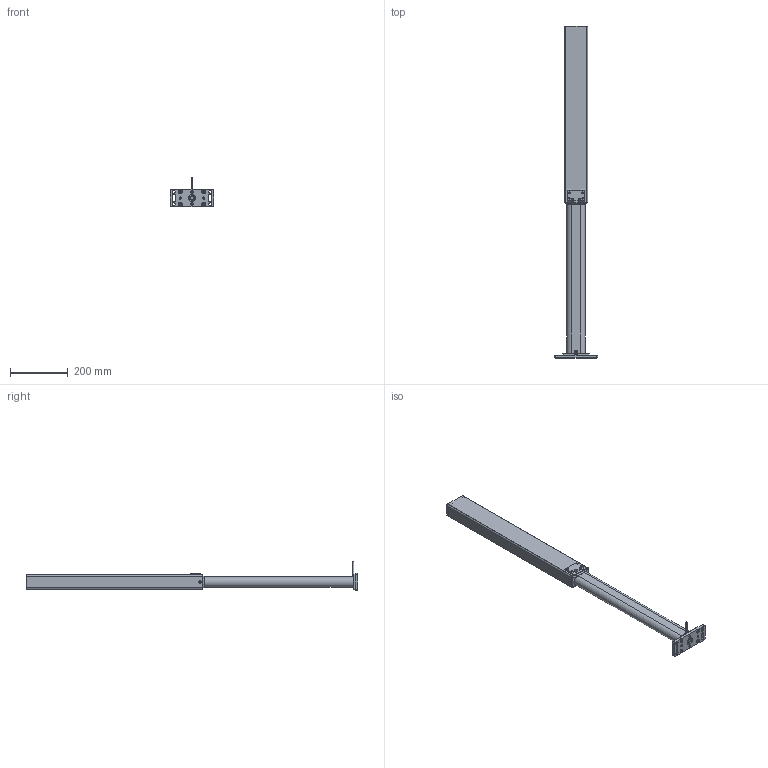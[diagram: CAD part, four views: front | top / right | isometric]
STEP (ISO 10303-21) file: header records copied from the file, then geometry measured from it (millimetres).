
FILE_DESCRIPTION(/* description */ ('Unknown'),/* implementation_level */ '2;1');
FILE_NAME(/* name */ '306.00100 Tischbein TA 1850 ausgefahren',/* time_stamp */ '2018-01-31T16:40:16+01:00',/* author */ ('Unknown'),/* organization */ ('Unknown'),/* preprocessor_version */ 'ST-DEVELOPER v16.7',/* originating_system */ 'DEX',/* authorisation */ $);
FILE_SCHEMA (('AP242_MANAGED_MODEL_BASED_3D_ENGINEERING_MIM_LF { 1 0 10303 442 1 1 4 }','AUTOMOTIVE_DESIGN {1 0 10303 214 3 1 1}'));
Length unit declared in the file: millimetre
Products named in the file (20): 306.00100; 142.00068; 109.00149_oa_0; 125.00063; 142.00021; 125.00021; 115.00008_oa_1; 127.00038; 127.00034_oa_2; Aussenprofil TA 1450; 127.00032; 127.00035; Innenprofil TA 1450; Abschlussplatte; 127.00048; Schraube 2,9x6,4; 127.00034_2'403_2'488_Kehlnaht 1_oa_3; 113.00002_70mm; 142.00031; 142.00077
Assembly tree (26 placements, depth 3):
  306.00100
    142.00068
    109.00149_oa_0
      125.00063
      142.00021
      125.00021
      115.00008_oa_1
    127.00038
    127.00034_oa_2
      Aussenprofil TA 1450
      127.00032
      127.00035
      Innenprofil TA 1450
      Abschlussplatte
      127.00048
      Schraube 2,9x6,4  x6
    113.00002_70mm
    142.00031
    142.00077  x4
  127.00034_2'403_2'488_Kehlnaht 1_oa_3
Bounding box: 150 x 1145.5 x 101.5 mm (x, y, z)
Volume: 610536.8 mm3; surface area: 567887.4 mm2
Topology: 27 solids, 27 shells, 971 faces, 2291 edges, 1362 vertices
Faces by surface type: cylinder 359, plane 325, bspline 129, cone 73, torus 72, sphere 13
Full cylindrical faces by diameter (mm): 1.8 x2, 2.2 x1, 2.5 x6, 2.9 x6, 2.99 x1, 3.5 x1, 4 x1, 4.1 x1, 4.2 x1, 4.917 x16, 5.8 x8, 6 x4, 6.5 x6, 6.647 x1, 6.917 x2, 7 x4, 8 x2, 8.376 x2, 9 x1, 10 x4, 12.5 x1, 13 x6, 13.5 x1, 14.4 x1, 17.9 x2, 25 x1
Entity records: 23407 total; most frequent: CARTESIAN_POINT 5819, DIRECTION 3221, ORIENTED_EDGE 3122, EDGE_CURVE 1561, AXIS2_PLACEMENT_3D 1278, VERTEX_POINT 1011, FACE_BOUND 944, EDGE_LOOP 942
